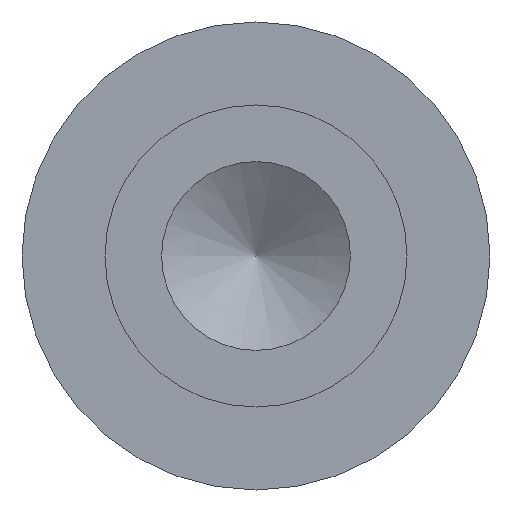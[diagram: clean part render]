
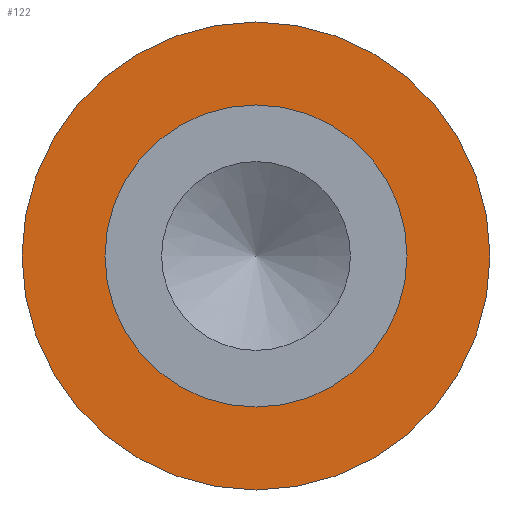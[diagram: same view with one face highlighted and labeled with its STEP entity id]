
A CAD part, left-side view. The second image highlights one B-rep face of the part: STEP entity #122.
In plain terms, the highlighted planar face has unit normal (-1, 0, 0).
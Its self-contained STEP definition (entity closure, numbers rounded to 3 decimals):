
#15=PLANE($,#145);
#24=FACE_BOUND($,#57,.T.);
#40=FACE_OUTER_BOUND($,#56,.T.);
#56=EDGE_LOOP($,(#106));
#57=EDGE_LOOP($,(#107));
#69=CIRCLE($,#143,0.508);
#71=CIRCLE($,#146,0.787);
#79=VERTEX_POINT($,#216);
#81=VERTEX_POINT($,#221);
#89=EDGE_CURVE($,#79,#79,#69,.T.);
#91=EDGE_CURVE($,#81,#81,#71,.T.);
#106=ORIENTED_EDGE($,*,*,#91,.F.);
#107=ORIENTED_EDGE($,*,*,#89,.T.);
#122=ADVANCED_FACE($,(#40,#24),#15,.T.);
#143=AXIS2_PLACEMENT_3D($,#217,#181,#182);
#145=AXIS2_PLACEMENT_3D($,#220,#185,#186);
#146=AXIS2_PLACEMENT_3D($,#222,#187,#188);
#181=DIRECTION('center_axis',(1.,0.,0.));
#182=DIRECTION('ref_axis',(0.,1.,0.));
#185=DIRECTION('center_axis',(-1.,0.,0.));
#186=DIRECTION('ref_axis',(0.,0.,1.));
#187=DIRECTION('center_axis',(1.,0.,0.));
#188=DIRECTION('ref_axis',(0.,1.,0.));
#216=CARTESIAN_POINT('',(2.08,0.508,0.));
#217=CARTESIAN_POINT('Origin',(2.08,0.,0.));
#220=CARTESIAN_POINT('Origin',(2.08,0.648,0.));
#221=CARTESIAN_POINT('',(2.08,0.787,0.));
#222=CARTESIAN_POINT('Origin',(2.08,0.,0.));
